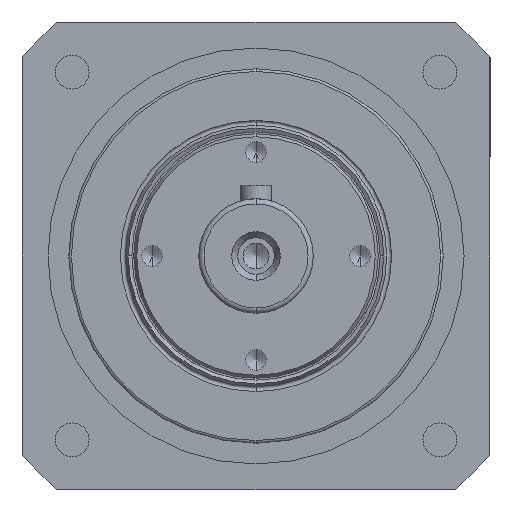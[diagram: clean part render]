
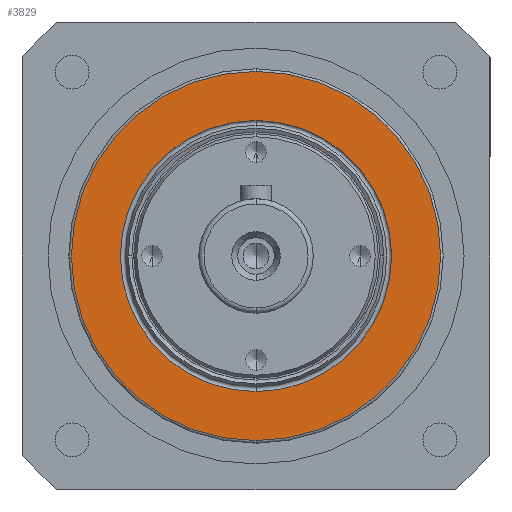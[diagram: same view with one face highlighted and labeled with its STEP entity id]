
A CAD part, left-side view. The second image highlights one B-rep face of the part: STEP entity #3829.
In plain terms, the highlighted planar face has unit normal (-1, 0, 0) as drawn and (0, -1, 0) by its records, which use the part's own axes.
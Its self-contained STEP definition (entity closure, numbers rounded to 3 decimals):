
#244 = DIRECTION ( 'NONE',  ( 0., 0., -1. ) ) ;
#283 = CARTESIAN_POINT ( 'NONE',  ( 0., 0., 0. ) ) ;
#380 = CARTESIAN_POINT ( 'NONE',  ( 0., 0., 0. ) ) ;
#753 = VERTEX_POINT ( 'NONE', #9608 ) ;
#1547 = EDGE_CURVE ( 'NONE', #15272, #11820, #4989, .T. ) ;
#1550 = DIRECTION ( 'NONE',  ( 0., 0., 1. ) ) ;
#1665 = DIRECTION ( 'NONE',  ( 0., 0., 1. ) ) ;
#1700 = DIRECTION ( 'NONE',  ( 0., 1., 0. ) ) ;
#2130 = VERTEX_POINT ( 'NONE', #7029 ) ;
#2725 = CARTESIAN_POINT ( 'NONE',  ( 0., 0., 35.5 ) ) ;
#3156 = ORIENTED_EDGE ( 'NONE', *, *, #1547, .T. ) ;
#3640 = CARTESIAN_POINT ( 'NONE',  ( 0., 0., 0. ) ) ;
#3829 = ADVANCED_FACE ( 'NONE', ( #6553, #16134 ), #7792, .T. ) ;
#4492 = EDGE_CURVE ( 'NONE', #11820, #15272, #9472, .T. ) ;
#4756 = AXIS2_PLACEMENT_3D ( 'NONE', #3640, #12414, #4896 ) ;
#4896 = DIRECTION ( 'NONE',  ( 0., 0., 1. ) ) ;
#4989 = CIRCLE ( 'NONE', #7177, 26.073 ) ;
#6553 = FACE_BOUND ( 'NONE', #10037, .T. ) ;
#6726 = ORIENTED_EDGE ( 'NONE', *, *, #4492, .T. ) ;
#7029 = CARTESIAN_POINT ( 'NONE',  ( 0., 0., 35.5 ) ) ;
#7177 = AXIS2_PLACEMENT_3D ( 'NONE', #9212, #1700, #10480 ) ;
#7792 = PLANE ( 'NONE',  #9594 ) ;
#7860 = CARTESIAN_POINT ( 'NONE',  ( 0., 0., 26.073 ) ) ;
#8984 = DIRECTION ( 'NONE',  ( 0., -1., 0. ) ) ;
#9071 = DIRECTION ( 'NONE',  ( 0., -1., 0. ) ) ;
#9177 = DIRECTION ( 'NONE',  ( 0., -1., 0. ) ) ;
#9204 = EDGE_LOOP ( 'NONE', ( #11143, #9497 ) ) ;
#9212 = CARTESIAN_POINT ( 'NONE',  ( 0., 0., 0. ) ) ;
#9472 = CIRCLE ( 'NONE', #4756, 26.073 ) ;
#9497 = ORIENTED_EDGE ( 'NONE', *, *, #13507, .T. ) ;
#9594 = AXIS2_PLACEMENT_3D ( 'NONE', #2725, #8984, #244 ) ;
#9608 = CARTESIAN_POINT ( 'NONE',  ( 0., 0., -35.5 ) ) ;
#10037 = EDGE_LOOP ( 'NONE', ( #6726, #3156 ) ) ;
#10480 = DIRECTION ( 'NONE',  ( 0., 0., 1. ) ) ;
#11104 = CIRCLE ( 'NONE', #12600, 35.5 ) ;
#11143 = ORIENTED_EDGE ( 'NONE', *, *, #15405, .T. ) ;
#11820 = VERTEX_POINT ( 'NONE', #7860 ) ;
#12238 = CIRCLE ( 'NONE', #15253, 35.5 ) ;
#12414 = DIRECTION ( 'NONE',  ( 0., 1., 0. ) ) ;
#12600 = AXIS2_PLACEMENT_3D ( 'NONE', #283, #9071, #1550 ) ;
#13507 = EDGE_CURVE ( 'NONE', #753, #2130, #11104, .T. ) ;
#14974 = CARTESIAN_POINT ( 'NONE',  ( 0., 0., -26.073 ) ) ;
#15253 = AXIS2_PLACEMENT_3D ( 'NONE', #380, #9177, #1665 ) ;
#15272 = VERTEX_POINT ( 'NONE', #14974 ) ;
#15405 = EDGE_CURVE ( 'NONE', #2130, #753, #12238, .T. ) ;
#16134 = FACE_OUTER_BOUND ( 'NONE', #9204, .T. ) ;
